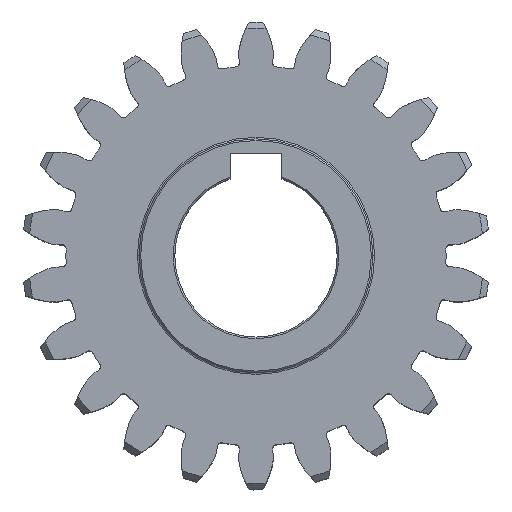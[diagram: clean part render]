
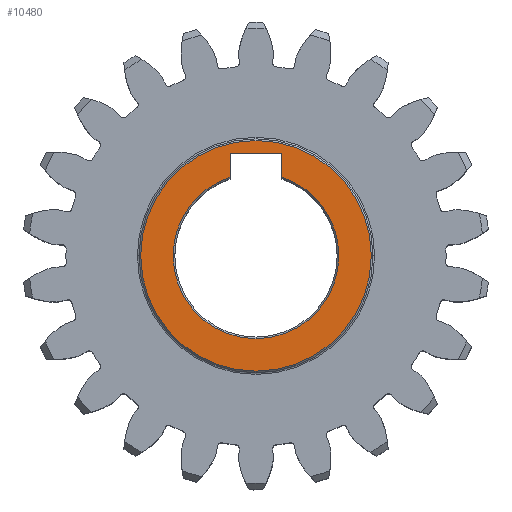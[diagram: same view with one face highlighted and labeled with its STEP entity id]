
A CAD part, top view. The second image highlights one B-rep face of the part: STEP entity #10480.
In plain terms, the highlighted planar face has unit normal (0, 0, 1).
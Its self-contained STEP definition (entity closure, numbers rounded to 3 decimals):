
#557 = ORIENTED_EDGE ( 'NONE', *, *, #11734, .T. ) ;
#824 = ORIENTED_EDGE ( 'NONE', *, *, #4263, .T. ) ;
#920 = ORIENTED_EDGE ( 'NONE', *, *, #12153, .T. ) ;
#1083 = DIRECTION ( 'NONE',  ( 1., 0., 0. ) ) ;
#1093 = VERTEX_POINT ( 'NONE', #6695 ) ;
#1338 = LINE ( 'NONE', #12492, #11359 ) ;
#1391 = DIRECTION ( 'NONE',  ( 0., 0., -1. ) ) ;
#1420 = AXIS2_PLACEMENT_3D ( 'NONE', #3674, #1391, #3608 ) ;
#1602 = CARTESIAN_POINT ( 'NONE',  ( -4., 9.2, 15. ) ) ;
#2080 = CARTESIAN_POINT ( 'NONE',  ( 4., 12.106, 15. ) ) ;
#2229 = VERTEX_POINT ( 'NONE', #11649 ) ;
#2261 = DIRECTION ( 'NONE',  ( 0., 0., 1. ) ) ;
#2539 = DIRECTION ( 'NONE',  ( 1., 0., 0. ) ) ;
#3049 = ORIENTED_EDGE ( 'NONE', *, *, #8654, .T. ) ;
#3226 = CARTESIAN_POINT ( 'NONE',  ( 0., 0., 15. ) ) ;
#3275 = CIRCLE ( 'NONE', #5849, 17.75 ) ;
#3608 = DIRECTION ( 'NONE',  ( 1., 0., 0. ) ) ;
#3674 = CARTESIAN_POINT ( 'NONE',  ( 0., 0., 15. ) ) ;
#3951 = CIRCLE ( 'NONE', #12914, 12.75 ) ;
#3964 = VECTOR ( 'NONE', #5120, 1000. ) ;
#4263 = EDGE_CURVE ( 'NONE', #11244, #8959, #6384, .T. ) ;
#4471 = EDGE_LOOP ( 'NONE', ( #557, #824, #4889, #10652, #12151, #3049 ) ) ;
#4889 = ORIENTED_EDGE ( 'NONE', *, *, #7321, .T. ) ;
#5002 = CIRCLE ( 'NONE', #12562, 17.75 ) ;
#5066 = CARTESIAN_POINT ( 'NONE',  ( 4., 15.8, 15. ) ) ;
#5120 = DIRECTION ( 'NONE',  ( 0., -1., 0. ) ) ;
#5201 = VERTEX_POINT ( 'NONE', #5469 ) ;
#5440 = DIRECTION ( 'NONE',  ( 1., 0., 0. ) ) ;
#5469 = CARTESIAN_POINT ( 'NONE',  ( -4., 12.106, 15. ) ) ;
#5849 = AXIS2_PLACEMENT_3D ( 'NONE', #11528, #2261, #2539 ) ;
#6237 = DIRECTION ( 'NONE',  ( 0., 1., 0. ) ) ;
#6384 = CIRCLE ( 'NONE', #11800, 12.75 ) ;
#6504 = EDGE_CURVE ( 'NONE', #5201, #2229, #11701, .T. ) ;
#6599 = DIRECTION ( 'NONE',  ( 0., 0., 1. ) ) ;
#6639 = CARTESIAN_POINT ( 'NONE',  ( 0., 0., 15. ) ) ;
#6695 = CARTESIAN_POINT ( 'NONE',  ( -17.75, 0., 15. ) ) ;
#6739 = FACE_OUTER_BOUND ( 'NONE', #8601, .T. ) ;
#7233 = CARTESIAN_POINT ( 'NONE',  ( 17.75, 0., 15. ) ) ;
#7312 = ORIENTED_EDGE ( 'NONE', *, *, #14114, .T. ) ;
#7321 = EDGE_CURVE ( 'NONE', #8959, #11891, #9664, .T. ) ;
#7409 = VERTEX_POINT ( 'NONE', #5066 ) ;
#7674 = DIRECTION ( 'NONE',  ( 0., 0., -1. ) ) ;
#8292 = LINE ( 'NONE', #14068, #3964 ) ;
#8601 = EDGE_LOOP ( 'NONE', ( #7312, #920 ) ) ;
#8654 = EDGE_CURVE ( 'NONE', #2229, #7409, #1338, .T. ) ;
#8706 = VECTOR ( 'NONE', #6237, 1000. ) ;
#8825 = DIRECTION ( 'NONE',  ( 0., 0., -1. ) ) ;
#8915 = CARTESIAN_POINT ( 'NONE',  ( 0., 0., 15. ) ) ;
#8959 = VERTEX_POINT ( 'NONE', #12208 ) ;
#9664 = CIRCLE ( 'NONE', #1420, 12.75 ) ;
#9872 = VERTEX_POINT ( 'NONE', #7233 ) ;
#10480 = ADVANCED_FACE ( 'NONE', ( #6739, #12297 ), #10954, .T. ) ;
#10652 = ORIENTED_EDGE ( 'NONE', *, *, #11570, .T. ) ;
#10947 = CARTESIAN_POINT ( 'NONE',  ( -12.75, 0., 15. ) ) ;
#10954 = PLANE ( 'NONE',  #13655 ) ;
#11153 = DIRECTION ( 'NONE',  ( 1., 0., 0. ) ) ;
#11244 = VERTEX_POINT ( 'NONE', #2080 ) ;
#11359 = VECTOR ( 'NONE', #12275, 1000. ) ;
#11528 = CARTESIAN_POINT ( 'NONE',  ( 0., 0., 15. ) ) ;
#11570 = EDGE_CURVE ( 'NONE', #11891, #5201, #3951, .T. ) ;
#11649 = CARTESIAN_POINT ( 'NONE',  ( -4., 15.8, 15. ) ) ;
#11701 = LINE ( 'NONE', #1602, #8706 ) ;
#11734 = EDGE_CURVE ( 'NONE', #7409, #11244, #8292, .T. ) ;
#11800 = AXIS2_PLACEMENT_3D ( 'NONE', #6639, #7674, #11153 ) ;
#11891 = VERTEX_POINT ( 'NONE', #10947 ) ;
#12149 = CARTESIAN_POINT ( 'NONE',  ( 0., 0., 15. ) ) ;
#12151 = ORIENTED_EDGE ( 'NONE', *, *, #6504, .T. ) ;
#12153 = EDGE_CURVE ( 'NONE', #9872, #1093, #3275, .T. ) ;
#12208 = CARTESIAN_POINT ( 'NONE',  ( 12.75, 0., 15. ) ) ;
#12275 = DIRECTION ( 'NONE',  ( 1., 0., 0. ) ) ;
#12297 = FACE_BOUND ( 'NONE', #4471, .T. ) ;
#12389 = DIRECTION ( 'NONE',  ( 1., 0., 0. ) ) ;
#12492 = CARTESIAN_POINT ( 'NONE',  ( 4., 15.8, 15. ) ) ;
#12562 = AXIS2_PLACEMENT_3D ( 'NONE', #8915, #13432, #12389 ) ;
#12914 = AXIS2_PLACEMENT_3D ( 'NONE', #3226, #8825, #5440 ) ;
#13432 = DIRECTION ( 'NONE',  ( 0., 0., 1. ) ) ;
#13655 = AXIS2_PLACEMENT_3D ( 'NONE', #12149, #6599, #1083 ) ;
#14068 = CARTESIAN_POINT ( 'NONE',  ( 4., 9.2, 15. ) ) ;
#14114 = EDGE_CURVE ( 'NONE', #1093, #9872, #5002, .T. ) ;
